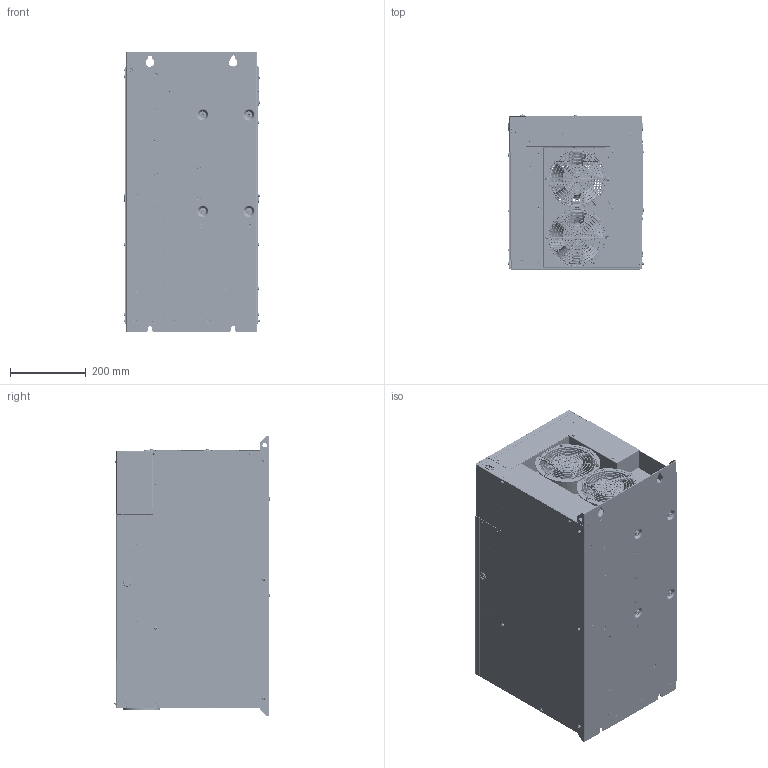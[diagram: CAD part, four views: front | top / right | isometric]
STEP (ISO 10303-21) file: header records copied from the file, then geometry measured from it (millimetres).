
FILE_DESCRIPTION((''),'2;1');
FILE_NAME('00-SD700-221D-P-00_ASM','2022-05-27T',('v0214'),(''),'CREO PARAMETRIC BY PTC INC, 2016260','CREO PARAMETRIC BY PTC INC, 2016260','');
FILE_SCHEMA(('AP203_CONFIGURATION_CONTROLLED_3D_DESIGN_OF_MECHANICAL_PARTS_AND_ASSEMBLIES_MIM_LF { 1 0 10303 403 2 1 2 }'));
Products named in the file (177): 600IGBT1B_ASM; 77_155_6800_400V-1050010018; F17251N29A220-1390020013; SET350; SET350_ASM; 77; LOOP-320X80; JNA410; JNA410_ASM; __3; __-__2_1_; __-__1; __-__2_2_; PRODUCT_1279_ASM; _____1_1-2276_1; Z_____1_1_1; _____1_1-382_1; M8_____1_1; ____1_1_1_1; S-M6-2; S-M8-2; DCL-360A-0_152MH_1_ASM; LOOP-17; PY172-9HA; ELT-SC-95-12; ELT-SC-95-12_ASM; AP100-T3-022G-P203; BLY2-600IOV2W1-1380020038; ELT-2510-4A-2_54; ELT-2510-4Y-2_54; ELT-2510-4P-2_54_ASM; BLY2-600IOV2W1-1380020038_ASM; AC300-T3-160G-D_ASM; AC300-T3-160G-H001; AC300-T3-160G-H002; AC300-T3-160G-H_ASM; AC300-T3-160G-P002P; S-M4-2; AC300-T3-160G-P002_ASM; AC300-T3-160G-P003P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
Assembly tree (696 placements, depth 6):
  00-SD700-221D-P-00_ASM
    AC300-T3-160G-D_ASM
      600IGBT1B_ASM  x3
      77_155_6800_400V-1050010018  x6
      F17251N29A220-1390020013  x2
      SET350_ASM  x6
        SET350
      77  x6
      LOOP-320X80
      JNA410_ASM  x2
        JNA410
      DCL-360A-0_152MH_1_ASM
        __3  x2
        PRODUCT_1279_ASM
          __-__2_1_
          __-__1
          __-__2_2_
        _____1_1-2276_1  x2
        Z_____1_1_1  x2
        _____1_1-382_1
        M8_____1_1
        ____1_1_1_1
        S-M6-2  x4
        S-M8-2  x2
      LOOP-17  x2
      PY172-9HA  x2
      ELT-SC-95-12_ASM  x6
        ELT-SC-95-12
      AP100-T3-022G-P203  x2
      BLY2-600IOV2W1-1380020038_ASM
        BLY2-600IOV2W1-1380020038
        ELT-2510-4P-2_54_ASM  x2
          ELT-2510-4A-2_54
          ELT-2510-4Y-2_54
    AC300-T3-160G-H_ASM
      AC300-T3-160G-H001
      AC300-T3-160G-H002
    SD700-221D-P_ASM
      SD700-221D-P001_ASM
        AC300-T3-160G-P002_ASM
          AC300-T3-160G-P002P
          S-M4-2  x6
        AC300-T3-160G-P003_ASM
          AC300-T3-160G-P003P
          S-M4-2  x20
          S-M5-2  x2
          BSO-3_5M3-8  x12
          SO-3_5M3-6  x5
          BSO-M4-20  x2
          S-M3-2  x2
        AC300-T3-160G-P004_ASM
          AC300-T3-160G-P004P
          S-M4-2
        AC300-T3-160G-P005_ASM
          AC300-T3-160G-P005P
          S-M6-1  x12
          S-M8-1  x2
          S-M4-1  x7
        AC300-T3-160G-P006_ASM
          AC300-T3-160G-P006P
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Bounding box: 361.58 x 409.89 x 738 mm (x, y, z)
Volume: 17054793 mm3; surface area: 10064788.6 mm2
Topology: 661 solids, 667 shells, 36437 faces, 136454 edges, 130452 vertices
Faces by surface type: plane 25489, cylinder 7068, cone 1962, torus 970, sphere 497, bspline 439, extrusion 12
Entity records: 909479 total; most frequent: CARTESIAN_POINT 128806, DIRECTION 121821, PRESENTATION_STYLE_ASSIGNMENT 69636, STYLED_ITEM 68558, CURVE_STYLE 68459, ORIENTED_EDGE 64290, VECTOR 53135, LINE 53123
